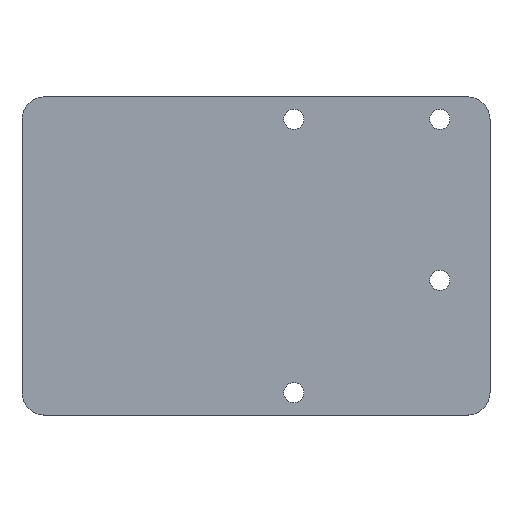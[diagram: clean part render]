
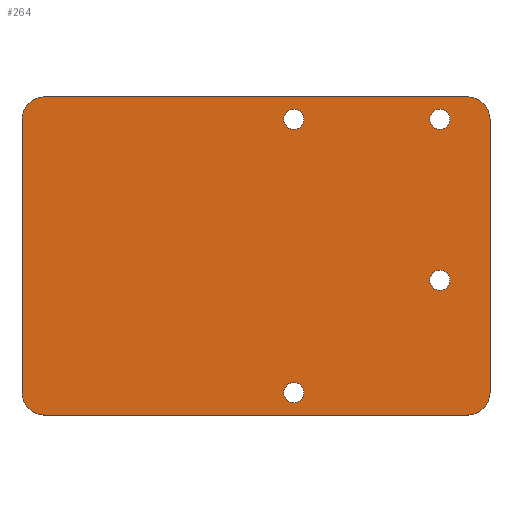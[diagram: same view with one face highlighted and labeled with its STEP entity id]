
A CAD part, top view. The second image highlights one B-rep face of the part: STEP entity #264.
In plain terms, the highlighted planar face has unit normal (0, 0, 1).
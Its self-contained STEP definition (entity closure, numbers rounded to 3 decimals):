
#2 = CARTESIAN_POINT ( 'NONE',  ( 6., 6., 3. ) ) ;
#19 = ORIENTED_EDGE ( 'NONE', *, *, #517, .T. ) ;
#21 = CIRCLE ( 'NONE', #463, 2.7 ) ;
#24 = CARTESIAN_POINT ( 'NONE',  ( 108.904, 36., 3. ) ) ;
#29 = DIRECTION ( 'NONE',  ( 0., 0., 1. ) ) ;
#34 = EDGE_CURVE ( 'NONE', #615, #312, #566, .T. ) ;
#35 = EDGE_LOOP ( 'NONE', ( #19, #232, #465, #54, #468, #431, #373, #501 ) ) ;
#36 = ORIENTED_EDGE ( 'NONE', *, *, #417, .F. ) ;
#41 = VECTOR ( 'NONE', #492, 1000. ) ;
#46 = EDGE_CURVE ( 'NONE', #524, #426, #545, .T. ) ;
#48 = DIRECTION ( 'NONE',  ( 0., 0., 1. ) ) ;
#54 = ORIENTED_EDGE ( 'NONE', *, *, #573, .T. ) ;
#55 = AXIS2_PLACEMENT_3D ( 'NONE', #502, #215, #68 ) ;
#57 = CARTESIAN_POINT ( 'NONE',  ( 114.304, 36., 3. ) ) ;
#59 = CARTESIAN_POINT ( 'NONE',  ( 75.304, 79., 3. ) ) ;
#60 = AXIS2_PLACEMENT_3D ( 'NONE', #418, #363, #309 ) ;
#68 = DIRECTION ( 'NONE',  ( 1., 0., 0. ) ) ;
#71 = CIRCLE ( 'NONE', #359, 2.7 ) ;
#77 = FACE_BOUND ( 'NONE', #346, .T. ) ;
#81 = EDGE_LOOP ( 'NONE', ( #203, #553 ) ) ;
#84 = AXIS2_PLACEMENT_3D ( 'NONE', #489, #199, #444 ) ;
#89 = VERTEX_POINT ( 'NONE', #57 ) ;
#94 = CARTESIAN_POINT ( 'NONE',  ( 0., 6., 3. ) ) ;
#100 = CARTESIAN_POINT ( 'NONE',  ( 125., 6., 3. ) ) ;
#101 = DIRECTION ( 'NONE',  ( 0., 0., 1. ) ) ;
#104 = DIRECTION ( 'NONE',  ( 1., 0., 0. ) ) ;
#106 = CARTESIAN_POINT ( 'NONE',  ( 6., 0., 3. ) ) ;
#107 = CARTESIAN_POINT ( 'NONE',  ( 75.304, 6., 3. ) ) ;
#111 = DIRECTION ( 'NONE',  ( 1., 0., 0. ) ) ;
#117 = AXIS2_PLACEMENT_3D ( 'NONE', #206, #298, #415 ) ;
#118 = CARTESIAN_POINT ( 'NONE',  ( 114.304, 79., 3. ) ) ;
#124 = DIRECTION ( 'NONE',  ( 0., 0., 1. ) ) ;
#127 = LINE ( 'NONE', #150, #347 ) ;
#128 = EDGE_CURVE ( 'NONE', #331, #166, #376, .T. ) ;
#132 = ORIENTED_EDGE ( 'NONE', *, *, #46, .F. ) ;
#134 = AXIS2_PLACEMENT_3D ( 'NONE', #314, #29, #459 ) ;
#139 = ORIENTED_EDGE ( 'NONE', *, *, #614, .F. ) ;
#144 = AXIS2_PLACEMENT_3D ( 'NONE', #358, #412, #256 ) ;
#150 = CARTESIAN_POINT ( 'NONE',  ( 125., 6., 3. ) ) ;
#152 = DIRECTION ( 'NONE',  ( 0., -1., 0. ) ) ;
#158 = CARTESIAN_POINT ( 'NONE',  ( 108.904, 79., 3. ) ) ;
#161 = CARTESIAN_POINT ( 'NONE',  ( 69.904, 6., 3. ) ) ;
#166 = VERTEX_POINT ( 'NONE', #100 ) ;
#167 = DIRECTION ( 'NONE',  ( -1., 0., 0. ) ) ;
#173 = AXIS2_PLACEMENT_3D ( 'NONE', #216, #124, #259 ) ;
#177 = ORIENTED_EDGE ( 'NONE', *, *, #586, .F. ) ;
#181 = CARTESIAN_POINT ( 'NONE',  ( 6., 0., 3. ) ) ;
#187 = EDGE_LOOP ( 'NONE', ( #139, #263 ) ) ;
#189 = AXIS2_PLACEMENT_3D ( 'NONE', #300, #101, #197 ) ;
#196 = VECTOR ( 'NONE', #152, 1000. ) ;
#197 = DIRECTION ( 'NONE',  ( 1., 0., 0. ) ) ;
#199 = DIRECTION ( 'NONE',  ( 0., 0., 1. ) ) ;
#203 = ORIENTED_EDGE ( 'NONE', *, *, #270, .F. ) ;
#204 = PLANE ( 'NONE',  #144 ) ;
#206 = CARTESIAN_POINT ( 'NONE',  ( 111.604, 79., 3. ) ) ;
#210 = CARTESIAN_POINT ( 'NONE',  ( 6., 85., 3. ) ) ;
#212 = DIRECTION ( 'NONE',  ( -1., 0., 0. ) ) ;
#215 = DIRECTION ( 'NONE',  ( 0., 0., 1. ) ) ;
#216 = CARTESIAN_POINT ( 'NONE',  ( 119., 79., 3. ) ) ;
#222 = AXIS2_PLACEMENT_3D ( 'NONE', #2, #342, #104 ) ;
#232 = ORIENTED_EDGE ( 'NONE', *, *, #337, .T. ) ;
#234 = VERTEX_POINT ( 'NONE', #210 ) ;
#239 = EDGE_CURVE ( 'NONE', #426, #524, #257, .T. ) ;
#243 = DIRECTION ( 'NONE',  ( 0., 0., 1. ) ) ;
#256 = DIRECTION ( 'NONE',  ( 1., 0., 0. ) ) ;
#257 = CIRCLE ( 'NONE', #117, 2.7 ) ;
#259 = DIRECTION ( 'NONE',  ( 1., 0., 0. ) ) ;
#263 = ORIENTED_EDGE ( 'NONE', *, *, #567, .F. ) ;
#264 = ADVANCED_FACE ( 'NONE', ( #509, #452, #329, #77, #526 ), #204, .T. ) ;
#266 = VERTEX_POINT ( 'NONE', #310 ) ;
#270 = EDGE_CURVE ( 'NONE', #530, #320, #624, .T. ) ;
#286 = VERTEX_POINT ( 'NONE', #24 ) ;
#298 = DIRECTION ( 'NONE',  ( 0., 0., 1. ) ) ;
#300 = CARTESIAN_POINT ( 'NONE',  ( 6., 79., 3. ) ) ;
#309 = DIRECTION ( 'NONE',  ( 1., 0., 0. ) ) ;
#310 = CARTESIAN_POINT ( 'NONE',  ( 69.904, 79., 3. ) ) ;
#312 = VERTEX_POINT ( 'NONE', #181 ) ;
#314 = CARTESIAN_POINT ( 'NONE',  ( 72.604, 79., 3. ) ) ;
#320 = VERTEX_POINT ( 'NONE', #107 ) ;
#324 = VECTOR ( 'NONE', #167, 1000. ) ;
#329 = FACE_OUTER_BOUND ( 'NONE', #35, .T. ) ;
#331 = VERTEX_POINT ( 'NONE', #541 ) ;
#335 = CIRCLE ( 'NONE', #189, 6. ) ;
#336 = CARTESIAN_POINT ( 'NONE',  ( 111.604, 36., 3. ) ) ;
#337 = EDGE_CURVE ( 'NONE', #383, #615, #622, .T. ) ;
#342 = DIRECTION ( 'NONE',  ( 0., 0., 1. ) ) ;
#344 = CARTESIAN_POINT ( 'NONE',  ( 119., 85., 3. ) ) ;
#346 = EDGE_LOOP ( 'NONE', ( #404, #132 ) ) ;
#347 = VECTOR ( 'NONE', #537, 1000. ) ;
#358 = CARTESIAN_POINT ( 'NONE',  ( 6., 79., 3. ) ) ;
#359 = AXIS2_PLACEMENT_3D ( 'NONE', #606, #416, #549 ) ;
#360 = CARTESIAN_POINT ( 'NONE',  ( 0., 6., 3. ) ) ;
#362 = CIRCLE ( 'NONE', #134, 2.7 ) ;
#363 = DIRECTION ( 'NONE',  ( 0., 0., 1. ) ) ;
#369 = LINE ( 'NONE', #448, #324 ) ;
#373 = ORIENTED_EDGE ( 'NONE', *, *, #619, .T. ) ;
#376 = CIRCLE ( 'NONE', #623, 6. ) ;
#377 = EDGE_CURVE ( 'NONE', #320, #530, #519, .T. ) ;
#382 = EDGE_CURVE ( 'NONE', #166, #518, #127, .T. ) ;
#383 = VERTEX_POINT ( 'NONE', #577 ) ;
#386 = LINE ( 'NONE', #106, #41 ) ;
#400 = DIRECTION ( 'NONE',  ( 0., 0., 1. ) ) ;
#404 = ORIENTED_EDGE ( 'NONE', *, *, #239, .F. ) ;
#405 = CARTESIAN_POINT ( 'NONE',  ( 72.604, 6., 3. ) ) ;
#408 = CARTESIAN_POINT ( 'NONE',  ( 125., 79., 3. ) ) ;
#412 = DIRECTION ( 'NONE',  ( 0., 0., 1. ) ) ;
#415 = DIRECTION ( 'NONE',  ( 1., 0., 0. ) ) ;
#416 = DIRECTION ( 'NONE',  ( 0., 0., 1. ) ) ;
#417 = EDGE_CURVE ( 'NONE', #286, #89, #21, .T. ) ;
#418 = CARTESIAN_POINT ( 'NONE',  ( 111.604, 36., 3. ) ) ;
#420 = CIRCLE ( 'NONE', #173, 6. ) ;
#426 = VERTEX_POINT ( 'NONE', #158 ) ;
#431 = ORIENTED_EDGE ( 'NONE', *, *, #382, .T. ) ;
#433 = AXIS2_PLACEMENT_3D ( 'NONE', #405, #243, #111 ) ;
#436 = VERTEX_POINT ( 'NONE', #344 ) ;
#444 = DIRECTION ( 'NONE',  ( 1., 0., 0. ) ) ;
#448 = CARTESIAN_POINT ( 'NONE',  ( 6., 85., 3. ) ) ;
#452 = FACE_BOUND ( 'NONE', #187, .T. ) ;
#458 = CIRCLE ( 'NONE', #60, 2.7 ) ;
#459 = DIRECTION ( 'NONE',  ( 1., 0., 0. ) ) ;
#461 = VERTEX_POINT ( 'NONE', #59 ) ;
#463 = AXIS2_PLACEMENT_3D ( 'NONE', #336, #48, #580 ) ;
#465 = ORIENTED_EDGE ( 'NONE', *, *, #34, .T. ) ;
#468 = ORIENTED_EDGE ( 'NONE', *, *, #128, .T. ) ;
#489 = CARTESIAN_POINT ( 'NONE',  ( 111.604, 79., 3. ) ) ;
#492 = DIRECTION ( 'NONE',  ( 1., 0., 0. ) ) ;
#499 = CARTESIAN_POINT ( 'NONE',  ( 119., 6., 3. ) ) ;
#501 = ORIENTED_EDGE ( 'NONE', *, *, #506, .T. ) ;
#502 = CARTESIAN_POINT ( 'NONE',  ( 72.604, 6., 3. ) ) ;
#506 = EDGE_CURVE ( 'NONE', #436, #234, #369, .T. ) ;
#509 = FACE_BOUND ( 'NONE', #564, .T. ) ;
#517 = EDGE_CURVE ( 'NONE', #234, #383, #335, .T. ) ;
#518 = VERTEX_POINT ( 'NONE', #408 ) ;
#519 = CIRCLE ( 'NONE', #433, 2.7 ) ;
#524 = VERTEX_POINT ( 'NONE', #118 ) ;
#526 = FACE_BOUND ( 'NONE', #81, .T. ) ;
#530 = VERTEX_POINT ( 'NONE', #161 ) ;
#537 = DIRECTION ( 'NONE',  ( 0., 1., 0. ) ) ;
#541 = CARTESIAN_POINT ( 'NONE',  ( 119., 0., 3. ) ) ;
#545 = CIRCLE ( 'NONE', #84, 2.7 ) ;
#549 = DIRECTION ( 'NONE',  ( 1., 0., 0. ) ) ;
#553 = ORIENTED_EDGE ( 'NONE', *, *, #377, .F. ) ;
#564 = EDGE_LOOP ( 'NONE', ( #36, #177 ) ) ;
#566 = CIRCLE ( 'NONE', #222, 6. ) ;
#567 = EDGE_CURVE ( 'NONE', #461, #266, #71, .T. ) ;
#573 = EDGE_CURVE ( 'NONE', #312, #331, #386, .T. ) ;
#577 = CARTESIAN_POINT ( 'NONE',  ( 0., 79., 3. ) ) ;
#580 = DIRECTION ( 'NONE',  ( 1., 0., 0. ) ) ;
#586 = EDGE_CURVE ( 'NONE', #89, #286, #458, .T. ) ;
#606 = CARTESIAN_POINT ( 'NONE',  ( 72.604, 79., 3. ) ) ;
#614 = EDGE_CURVE ( 'NONE', #266, #461, #362, .T. ) ;
#615 = VERTEX_POINT ( 'NONE', #360 ) ;
#619 = EDGE_CURVE ( 'NONE', #518, #436, #420, .T. ) ;
#622 = LINE ( 'NONE', #94, #196 ) ;
#623 = AXIS2_PLACEMENT_3D ( 'NONE', #499, #400, #212 ) ;
#624 = CIRCLE ( 'NONE', #55, 2.7 ) ;
